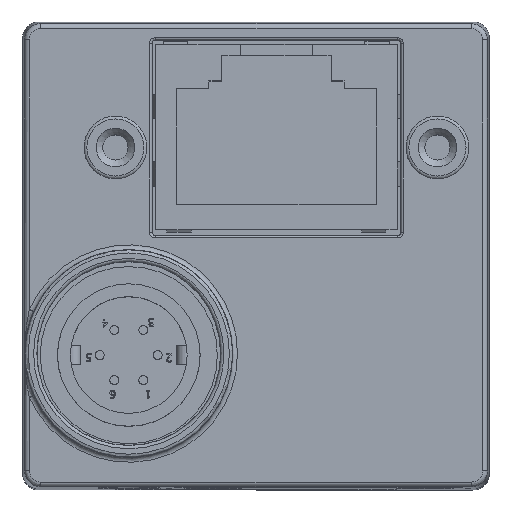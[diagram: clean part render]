
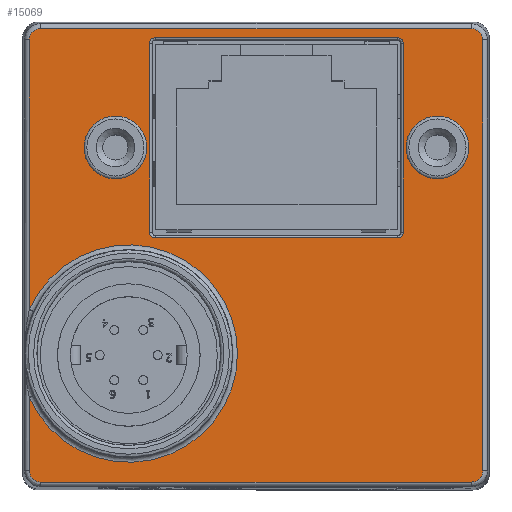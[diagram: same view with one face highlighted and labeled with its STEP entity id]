
A CAD part, top view. The second image highlights one B-rep face of the part: STEP entity #15069.
In plain terms, the highlighted planar face has unit normal (0, 0, 1).
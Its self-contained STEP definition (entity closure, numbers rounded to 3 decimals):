
#13500=CARTESIAN_POINT('',(9.321,6.7,54.));
#13501=VERTEX_POINT('',#13500);
#13502=CARTESIAN_POINT('',(11.268,6.7,54.));
#13503=DIRECTION('',(0.0,0.0,-1.0));
#13504=DIRECTION('',(1.0,0.0,0.0));
#13505=AXIS2_PLACEMENT_3D('',#13502,#13503,#13504);
#13506=CIRCLE('',#13505,1.947);
#13507=EDGE_CURVE('',#13501,#13501,#13506,.T.);
#13540=CARTESIAN_POINT('',(-10.679,6.7,54.));
#13541=VERTEX_POINT('',#13540);
#13542=CARTESIAN_POINT('',(-8.732,6.7,54.));
#13543=DIRECTION('',(0.0,0.0,-1.0));
#13544=DIRECTION('',(1.0,0.0,0.0));
#13545=AXIS2_PLACEMENT_3D('',#13542,#13543,#13544);
#13546=CIRCLE('',#13545,1.947);
#13547=EDGE_CURVE('',#13541,#13541,#13546,.T.);
#14368=CARTESIAN_POINT('',(14.077,13.385,54.));
#14369=VERTEX_POINT('',#14368);
#14378=CARTESIAN_POINT('',(13.377,14.085,54.));
#14379=VERTEX_POINT('',#14378);
#14387=CARTESIAN_POINT('',(13.377,13.384,54.));
#14388=DIRECTION('',(0.,0.,-1.0));
#14389=DIRECTION('',(0.707,0.707,0.));
#14390=AXIS2_PLACEMENT_3D('',#14387,#14388,#14389);
#14391=ELLIPSE('',#14390,0.7,0.7);
#14392=EDGE_CURVE('',#14379,#14369,#14391,.T.);
#14404=CARTESIAN_POINT('',(-13.377,14.085,54.));
#14405=VERTEX_POINT('',#14404);
#14413=CARTESIAN_POINT('',(-13.377,14.085,54.));
#14414=DIRECTION('',(1.0,0.0,0.0));
#14415=VECTOR('',#14414,26.754);
#14416=LINE('',#14413,#14415);
#14417=EDGE_CURVE('',#14405,#14379,#14416,.T.);
#14428=CARTESIAN_POINT('',(14.077,-13.377,54.));
#14429=VERTEX_POINT('',#14428);
#14430=CARTESIAN_POINT('',(14.077,13.385,54.));
#14431=DIRECTION('',(0.0,-1.0,0.0));
#14432=VECTOR('',#14431,26.762);
#14433=LINE('',#14430,#14432);
#14434=EDGE_CURVE('',#14369,#14429,#14433,.T.);
#14475=CARTESIAN_POINT('',(-14.077,13.385,54.));
#14476=VERTEX_POINT('',#14475);
#14484=CARTESIAN_POINT('',(-13.377,13.384,54.));
#14485=DIRECTION('',(0.,0.,-1.0));
#14486=DIRECTION('',(-0.707,0.707,0.));
#14487=AXIS2_PLACEMENT_3D('',#14484,#14485,#14486);
#14488=ELLIPSE('',#14487,0.7,0.7);
#14489=EDGE_CURVE('',#14476,#14405,#14488,.T.);
#14521=CARTESIAN_POINT('',(13.377,-14.077,54.));
#14522=VERTEX_POINT('',#14521);
#14523=CARTESIAN_POINT('',(13.377,-13.377,54.));
#14524=DIRECTION('',(0.,0.,-1.0));
#14525=DIRECTION('',(0.707,-0.707,0.));
#14526=AXIS2_PLACEMENT_3D('',#14523,#14524,#14525);
#14527=ELLIPSE('',#14526,0.7,0.7);
#14528=EDGE_CURVE('',#14429,#14522,#14527,.T.);
#14546=CARTESIAN_POINT('',(-14.077,-3.372,54.));
#14547=VERTEX_POINT('',#14546);
#14548=CARTESIAN_POINT('',(-14.077,-8.828,54.));
#14549=VERTEX_POINT('',#14548);
#14568=CARTESIAN_POINT('',(-14.077,-3.372,54.));
#14569=DIRECTION('',(0.0,1.0,0.0));
#14570=VECTOR('',#14569,16.757);
#14571=LINE('',#14568,#14570);
#14572=EDGE_CURVE('',#14547,#14476,#14571,.T.);
#14576=CARTESIAN_POINT('',(-14.077,-13.377,54.));
#14577=VERTEX_POINT('',#14576);
#14585=CARTESIAN_POINT('',(-14.077,-13.377,54.));
#14586=DIRECTION('',(0.0,1.0,0.0));
#14587=VECTOR('',#14586,4.549);
#14588=LINE('',#14585,#14587);
#14589=EDGE_CURVE('',#14577,#14549,#14588,.T.);
#14600=CARTESIAN_POINT('',(-13.377,-14.077,54.));
#14601=VERTEX_POINT('',#14600);
#14602=CARTESIAN_POINT('',(13.377,-14.077,54.));
#14603=DIRECTION('',(-1.0,0.0,0.0));
#14604=VECTOR('',#14603,26.754);
#14605=LINE('',#14602,#14604);
#14606=EDGE_CURVE('',#14522,#14601,#14605,.T.);
#14646=CARTESIAN_POINT('',(-13.377,-13.377,54.));
#14647=DIRECTION('',(0.,0.,-1.));
#14648=DIRECTION('',(-0.707,-0.707,0.));
#14649=AXIS2_PLACEMENT_3D('',#14646,#14647,#14648);
#14650=ELLIPSE('',#14649,0.7,0.7);
#14651=EDGE_CURVE('',#14601,#14577,#14650,.T.);
#14726=CARTESIAN_POINT('',(9.143,1.433,54.));
#14727=VERTEX_POINT('',#14726);
#14736=CARTESIAN_POINT('',(8.794,1.084,54.));
#14737=VERTEX_POINT('',#14736);
#14745=CARTESIAN_POINT('',(8.794,1.084,54.));
#14746=CARTESIAN_POINT('',(8.885,1.084,54.));
#14747=CARTESIAN_POINT('',(9.068,1.159,54.));
#14748=CARTESIAN_POINT('',(9.143,1.342,54.));
#14749=CARTESIAN_POINT('',(9.143,1.433,54.));
#14750=B_SPLINE_CURVE_WITH_KNOTS('',3,(#14745,#14746,#14747,#14748,#14749),.UNSPECIFIED.,.F.,.U.,(4,1,4),(-0.785,0.,0.785),.UNSPECIFIED.);
#14751=EDGE_CURVE('',#14737,#14727,#14750,.T.);
#14763=CARTESIAN_POINT('',(-6.257,1.084,54.));
#14764=VERTEX_POINT('',#14763);
#14772=CARTESIAN_POINT('',(-6.257,1.084,54.));
#14773=DIRECTION('',(1.0,0.0,0.0));
#14774=VECTOR('',#14773,15.05);
#14775=LINE('',#14772,#14774);
#14776=EDGE_CURVE('',#14764,#14737,#14775,.T.);
#14787=CARTESIAN_POINT('',(9.143,13.167,54.));
#14788=VERTEX_POINT('',#14787);
#14789=CARTESIAN_POINT('',(9.143,1.433,54.));
#14790=DIRECTION('',(0.0,1.0,0.0));
#14791=VECTOR('',#14790,11.733);
#14792=LINE('',#14789,#14791);
#14793=EDGE_CURVE('',#14727,#14788,#14792,.T.);
#14834=CARTESIAN_POINT('',(-6.606,1.433,54.));
#14835=VERTEX_POINT('',#14834);
#14843=CARTESIAN_POINT('',(-6.256,1.434,54.));
#14844=DIRECTION('',(0.,0.,1.0));
#14845=DIRECTION('',(-0.707,-0.707,0.));
#14846=AXIS2_PLACEMENT_3D('',#14843,#14844,#14845);
#14847=ELLIPSE('',#14846,0.35,0.35);
#14848=EDGE_CURVE('',#14835,#14764,#14847,.T.);
#14880=CARTESIAN_POINT('',(8.794,13.516,54.));
#14881=VERTEX_POINT('',#14880);
#14882=CARTESIAN_POINT('',(9.143,13.167,54.));
#14883=CARTESIAN_POINT('',(9.143,13.258,54.));
#14884=CARTESIAN_POINT('',(9.068,13.441,54.));
#14885=CARTESIAN_POINT('',(8.885,13.516,54.));
#14886=CARTESIAN_POINT('',(8.794,13.516,54.));
#14887=B_SPLINE_CURVE_WITH_KNOTS('',3,(#14882,#14883,#14884,#14885,#14886),.UNSPECIFIED.,.F.,.U.,(4,1,4),(-0.785,0.,0.785),.UNSPECIFIED.);
#14888=EDGE_CURVE('',#14788,#14881,#14887,.T.);
#14908=CARTESIAN_POINT('',(-6.606,13.167,54.));
#14909=VERTEX_POINT('',#14908);
#14917=CARTESIAN_POINT('',(-6.606,13.167,54.));
#14918=DIRECTION('',(0.0,-1.0,0.0));
#14919=VECTOR('',#14918,11.733);
#14920=LINE('',#14917,#14919);
#14921=EDGE_CURVE('',#14909,#14835,#14920,.T.);
#14932=CARTESIAN_POINT('',(-6.257,13.516,54.));
#14933=VERTEX_POINT('',#14932);
#14934=CARTESIAN_POINT('',(8.794,13.516,54.));
#14935=DIRECTION('',(-1.0,0.0,0.0));
#14936=VECTOR('',#14935,15.05);
#14937=LINE('',#14934,#14936);
#14938=EDGE_CURVE('',#14881,#14933,#14937,.T.);
#14978=CARTESIAN_POINT('',(-6.256,13.166,54.));
#14979=DIRECTION('',(0.,0.,1.0));
#14980=DIRECTION('',(-0.707,0.707,0.));
#14981=AXIS2_PLACEMENT_3D('',#14978,#14979,#14980);
#14982=ELLIPSE('',#14981,0.35,0.35);
#14983=EDGE_CURVE('',#14933,#14909,#14982,.T.);
#15030=CARTESIAN_POINT('',(0.,0.004,54.0));
#15031=DIRECTION('',(0.0,0.0,-1.0));
#15032=DIRECTION('',(-1.0,0.0,0.0));
#15033=AXIS2_PLACEMENT_3D('',#15030,#15031,#15032);
#15034=PLANE('',#15033);
#15035=CARTESIAN_POINT('',(-7.9,-6.1,54.));
#15036=DIRECTION('',(0.0,0.0,1.0));
#15037=DIRECTION('',(1.0,0.0,0.0));
#15038=AXIS2_PLACEMENT_3D('',#15035,#15036,#15037);
#15039=CIRCLE('',#15038,6.752);
#15040=EDGE_CURVE('',#14549,#14547,#15039,.T.);
#15041=ORIENTED_EDGE('',*,*,#15040,.F.);
#15042=ORIENTED_EDGE('',*,*,#14589,.F.);
#15043=ORIENTED_EDGE('',*,*,#14651,.F.);
#15044=ORIENTED_EDGE('',*,*,#14606,.F.);
#15045=ORIENTED_EDGE('',*,*,#14528,.F.);
#15046=ORIENTED_EDGE('',*,*,#14434,.F.);
#15047=ORIENTED_EDGE('',*,*,#14392,.F.);
#15048=ORIENTED_EDGE('',*,*,#14417,.F.);
#15049=ORIENTED_EDGE('',*,*,#14489,.F.);
#15050=ORIENTED_EDGE('',*,*,#14572,.F.);
#15051=EDGE_LOOP('',(#15041,#15042,#15043,#15044,#15045,#15046,#15047,#15048,#15049,#15050));
#15052=FACE_OUTER_BOUND('',#15051,.T.);
#15053=ORIENTED_EDGE('',*,*,#14983,.F.);
#15054=ORIENTED_EDGE('',*,*,#14938,.F.);
#15055=ORIENTED_EDGE('',*,*,#14888,.F.);
#15056=ORIENTED_EDGE('',*,*,#14793,.F.);
#15057=ORIENTED_EDGE('',*,*,#14751,.F.);
#15058=ORIENTED_EDGE('',*,*,#14776,.F.);
#15059=ORIENTED_EDGE('',*,*,#14848,.F.);
#15060=ORIENTED_EDGE('',*,*,#14921,.F.);
#15061=EDGE_LOOP('',(#15053,#15054,#15055,#15056,#15057,#15058,#15059,#15060));
#15062=FACE_BOUND('',#15061,.T.);
#15063=ORIENTED_EDGE('',*,*,#13507,.T.);
#15064=EDGE_LOOP('',(#15063));
#15065=FACE_BOUND('',#15064,.T.);
#15066=ORIENTED_EDGE('',*,*,#13547,.T.);
#15067=EDGE_LOOP('',(#15066));
#15068=FACE_BOUND('',#15067,.T.);
#15069=ADVANCED_FACE('',(#15052,#15062,#15065,#15068),#15034,.F.);
